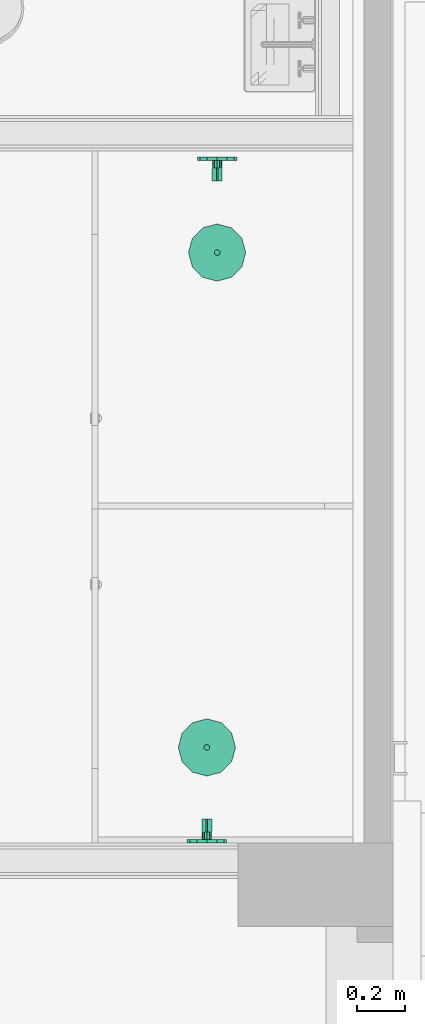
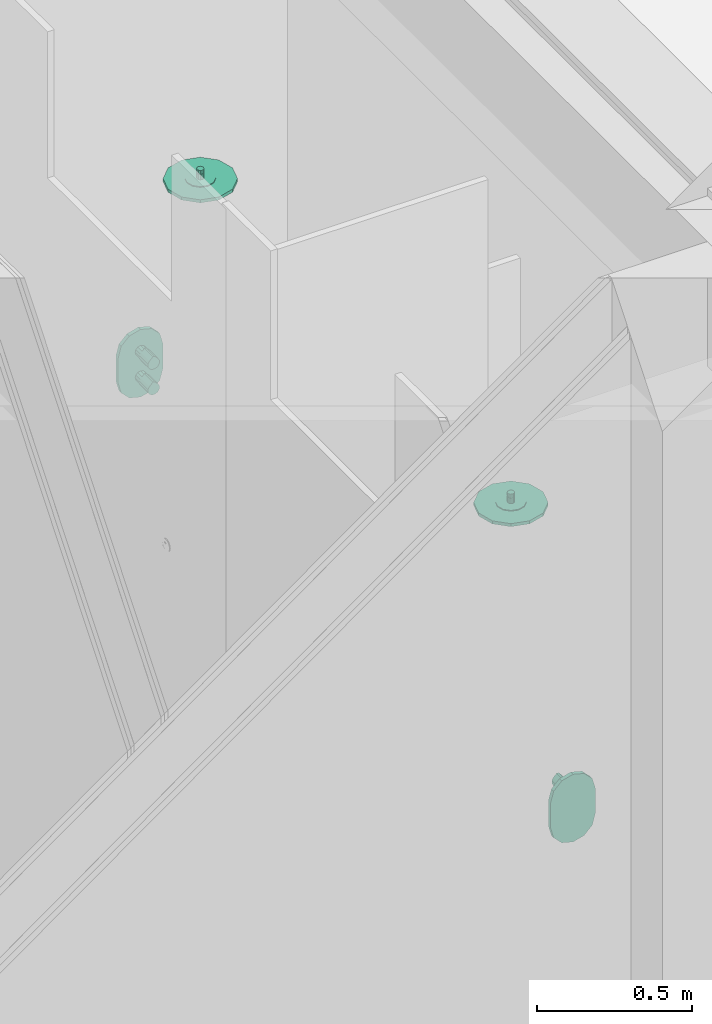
# One storey, part 92 of 109: 2 flow terminals.
"""IFC2X3 building model written with IfcOpenShell, lengths in millimetres."""

import ifcopenshell
import ifcopenshell.guid

model = None  # the IFC model being written
_history = None  # IfcOwnerHistory: only IFC2X3 demands one
_inside = {}  # id of a spatial element -> (the spatial element, [elements in it])
_under = {}  # id of a project, library or spatial element -> (it, [spatial elements below it])
_declared = {}  # id of a project -> (the project, [libraries it declares])
_typed = {}  # id of a type object -> (the type object, [elements of that type])
_made_of = {}  # id of a material, layer set ... -> (it, [elements and type objects made of it])


def new_model(schema):
    """Start an empty IFC model of exactly this schema.

    Asked for "IFC4X3", IfcOpenShell would pick the latest addendum, in which some entities
    have other attributes; the version numbers below select the first issue.
    IFC2X3 requires an IfcOwnerHistory on every rooted entity: one is made here for all.
    """
    global model, _history
    if schema == "IFC4X3":
        model = ifcopenshell.file(schema_version=(4, 3, 0, 0))
    else:
        model = ifcopenshell.file(schema=schema)
    _inside.clear()
    _under.clear()
    _declared.clear()
    _typed.clear()
    _made_of.clear()
    _history = None
    if model.schema == "IFC2X3":
        org = make("IfcOrganization", Name="unknown")
        user = make(
            "IfcPersonAndOrganization",
            ThePerson=make("IfcPerson", FamilyName="unknown"),
            TheOrganization=org,
        )
        app = make(
            "IfcApplication",
            ApplicationDeveloper=org,
            Version="unknown",
            ApplicationFullName="unknown",
            ApplicationIdentifier="unknown",
        )
        _history = make(
            "IfcOwnerHistory",
            OwningUser=user,
            OwningApplication=app,
            ChangeAction="ADDED",
            CreationDate=0,
        )
    return model


def make(cls, **values):
    """One entity of the class cls with the attributes given. An attribute that is None is left unset."""
    return model.create_entity(
        cls, **{name: value for name, value in values.items() if value is not None}
    )


def entity(cls, *values):
    """Any entity or typed value of the class cls, its attributes in the order of the schema. None: left unset."""
    e = model.create_entity(cls)
    for i, value in enumerate(values):
        if value is not None:
            e[i] = value
    return e


def rooted(cls, **values):
    """An entity with a GlobalId (a new one), such as an element, a storey or a relation."""
    return make(cls, GlobalId=ifcopenshell.guid.new(), OwnerHistory=_history, **values)


def si_unit(unit_type, name, prefix=None):
    """IfcSIUnit, for example si_unit("LENGTHUNIT", "METRE", prefix="MILLI")."""
    return make("IfcSIUnit", UnitType=unit_type, Prefix=prefix, Name=name)


def converted_unit(unit_type, name, factor, base, dimensions=None, offset=None):
    """IfcConversionBasedUnit, such as the inch: factor (a typed value) times the base unit."""
    return make(
        "IfcConversionBasedUnit"
        if offset is None
        else "IfcConversionBasedUnitWithOffset",
        ConversionOffset=offset,
        Dimensions=None
        if dimensions is None
        else entity("IfcDimensionalExponents", *dimensions),
        UnitType=unit_type,
        Name=name,
        ConversionFactor=make(
            "IfcMeasureWithUnit", ValueComponent=factor, UnitComponent=base
        ),
    )


def derived_unit(unit_type, elements):
    """IfcDerivedUnit: a product of units, each with its exponent."""
    return make(
        "IfcDerivedUnit",
        Elements=[
            make("IfcDerivedUnitElement", Unit=unit, Exponent=power)
            for unit, power in elements
        ],
        UnitType=unit_type,
    )


def money_unit(currency):
    """IfcMonetaryUnit."""
    return make("IfcMonetaryUnit", Currency=currency)


def assignment(units):
    """IfcUnitAssignment: the units of a project."""
    return None if units is None else make("IfcUnitAssignment", Units=units)


def point(xyz):
    """IfcCartesianPoint."""
    return None if xyz is None else make("IfcCartesianPoint", Coordinates=xyz)


def direction(xyz):
    """IfcDirection."""
    return None if xyz is None else make("IfcDirection", DirectionRatios=xyz)


def frame(location, z_axis=None, x_axis=None):
    """IfcAxis2Placement3D, a coordinate frame: its origin and axes. An axis left out is left unset."""
    return make(
        "IfcAxis2Placement3D",
        Location=point(location),
        Axis=direction(z_axis),
        RefDirection=direction(x_axis),
    )


def origin_with_axes():
    """The frame at (0, 0, 0) with the z axis (0, 0, 1) and the x axis (1, 0, 0) written out."""
    return frame((0.0, 0.0, 0.0), z_axis=(0.0, 0.0, 1.0), x_axis=(1.0, 0.0, 0.0))


def place(relative_to, where):
    """IfcLocalPlacement: puts the frame where relative to a parent placement (None: the world)."""
    return make(
        "IfcLocalPlacement", PlacementRelTo=relative_to, RelativePlacement=where
    )


def context(
    kind, dimensions, precision=None, world=None, true_north=None, identifier=None
):
    """IfcGeometricRepresentationContext, for example the 3D "Model" context."""
    return make(
        "IfcGeometricRepresentationContext",
        ContextIdentifier=identifier,
        ContextType=kind,
        CoordinateSpaceDimension=dimensions,
        Precision=precision,
        WorldCoordinateSystem=world,
        TrueNorth=true_north,
    )


def subcontext(parent, identifier, kind, view, scale=None):
    """IfcGeometricRepresentationSubContext, for example "Body" below "Model"."""
    return make(
        "IfcGeometricRepresentationSubContext",
        ContextIdentifier=identifier,
        ContextType=kind,
        ParentContext=parent,
        TargetScale=scale,
        TargetView=view,
    )


def project(units=None, contexts=None):
    """IfcProject with its units and contexts."""
    return rooted(
        "IfcProject",
        Name="project",
        RepresentationContexts=contexts,
        UnitsInContext=assignment(units),
    )


def spatial(cls, under=None, at=None, **own):
    """A site, building, storey or space (cls), placed at a placement, below another one or the project."""
    s = rooted(cls, ObjectPlacement=at, **own)
    if under is not None:
        _under.setdefault(under.id(), (under, []))[1].append(s)
    return s


def faces_of(points, faces, orient=None, outer=None):
    """IfcFace entities. A face is a list of loops; a loop is a list of indices into points, from 0.

    orient and outer hold one flag for each loop. By default every Orientation is true, the
    first loop of a face is its IfcFaceOuterBound and the others are IfcFaceBound.
    """
    made = []
    for i, loops in enumerate(faces):
        bounds = []
        for j, loop in enumerate(loops):
            is_outer = j == 0 if outer is None else outer[i][j]
            bounds.append(
                make(
                    "IfcFaceOuterBound" if is_outer else "IfcFaceBound",
                    Bound=make("IfcPolyLoop", Polygon=[points[k] for k in loop]),
                    Orientation=True if orient is None else orient[i][j],
                )
            )
        made.append(make("IfcFace", Bounds=bounds))
    return made


def faceted_brep(points, faces, orient=None, outer=None, voids=None):
    """IfcFacetedBrep: a solid bounded by flat faces; with voids (closed shells), ...WithVoids."""
    shared = [point(p) for p in points]
    hull = make("IfcClosedShell", CfsFaces=faces_of(shared, faces, orient, outer))
    if voids is None:
        return make("IfcFacetedBrep", Outer=hull)
    return make(
        "IfcFacetedBrepWithVoids",
        Outer=hull,
        Voids=[
            make(cls, CfsFaces=faces_of(shared, fs, o, b)) for cls, fs, o, b in voids
        ],
    )


def shape(context_of_items, identifier, shape_type, items):
    """IfcShapeRepresentation: the items that make up one representation, for example the "Body"."""
    return make(
        "IfcShapeRepresentation",
        ContextOfItems=context_of_items,
        RepresentationIdentifier=identifier,
        RepresentationType=shape_type,
        Items=items,
    )


def source(mapping_origin, context_of_items, identifier, shape_type, items):
    """IfcRepresentationMap: a shape defined once, which mapped items show again and again."""
    return make(
        "IfcRepresentationMap",
        MappingOrigin=mapping_origin,
        MappedRepresentation=shape(context_of_items, identifier, shape_type, items),
    )


def transform(
    local_origin,
    x_axis=None,
    y_axis=None,
    z_axis=None,
    scale=None,
    scale2=None,
    scale3=None,
    uniform=True,
):
    """IfcCartesianTransformationOperator3D, or its non-uniform kind. x_axis, y_axis, z_axis: its Axis1, 2, 3."""
    if uniform:
        return make(
            "IfcCartesianTransformationOperator3D",
            Axis1=direction(x_axis),
            Axis2=direction(y_axis),
            LocalOrigin=point(local_origin),
            Scale=scale,
            Axis3=direction(z_axis),
        )
    return make(
        "IfcCartesianTransformationOperator3DnonUniform",
        Axis1=direction(x_axis),
        Axis2=direction(y_axis),
        LocalOrigin=point(local_origin),
        Scale=scale,
        Axis3=direction(z_axis),
        Scale2=scale2,
        Scale3=scale3,
    )


def mapped(mapping_source, mapping_target):
    """IfcMappedItem: shows the shape of a source again, moved by a transform."""
    return make(
        "IfcMappedItem", MappingSource=mapping_source, MappingTarget=mapping_target
    )


def made_of(thing, what):
    """Note that an element or type object is made of a material, layer set ...; save() writes the relation."""
    if what is not None:
        _made_of.setdefault(what.id(), (what, []))[1].append(thing)
    return thing


def type_object(cls, material=None, **own):
    """A type object (cls), such as IfcWallType, which elements share."""
    return made_of(rooted(cls, **own), material)


def type_shapes(of_type, sources):
    """Give a type object the sources (RepresentationMaps) that its elements show as mapped items."""
    of_type.RepresentationMaps = sources


def element(
    cls,
    number,
    at=None,
    inside=None,
    cuts=None,
    type_object=None,
    material=None,
    context=None,
    identifier="Body",
    shape_type=None,
    held_by="IfcProductDefinitionShape",
    body=None,
    shapes=None,
    **own,
):
    """One element of the class cls, such as IfcWall. Its Tag is "e" and its number.

    at: its placement. inside: the storey or other place that contains it. cuts: it is an
    opening in that element (IfcRelVoidsElement). A single representation is given by context,
    identifier, shape_type and body (its items); several are given by shapes. held_by: the class
    of the entity that holds the representations. save() writes the other relations.
    """
    e = rooted(cls, Tag="e%d" % number, ObjectPlacement=at, **own)
    if body is not None:
        shapes = [shape(context, identifier, shape_type, body)]
    if shapes is not None:
        e.Representation = make(held_by, Representations=shapes)
    if inside is not None:
        _inside.setdefault(inside.id(), (inside, []))[1].append(e)
    if cuts is not None:
        rooted(
            "IfcRelVoidsElement", RelatingBuildingElement=cuts, RelatedOpeningElement=e
        )
    if type_object is not None:
        _typed.setdefault(type_object.id(), (type_object, []))[1].append(e)
    return made_of(e, material)


def aggregate(whole, parts):
    """IfcRelAggregates: a whole, such as a stair, and the parts it consists of."""
    return rooted("IfcRelAggregates", RelatingObject=whole, RelatedObjects=parts)


def save(model, path):
    """Write the relations noted so far, then the file.

    IfcRelAggregates (storeys below a building ...), IfcRelContainedInSpatialStructure (elements
    in a storey), IfcRelDefinesByType, IfcRelAssociatesMaterial and IfcRelDeclares: one each for
    every whole, place, type object, material and project.
    """
    for whole, parts in _under.values():
        aggregate(whole, parts)
    for where, things in _inside.values():
        rooted(
            "IfcRelContainedInSpatialStructure",
            RelatedElements=things,
            RelatingStructure=where,
        )
    for kind, things in _typed.values():
        rooted("IfcRelDefinesByType", RelatedObjects=things, RelatingType=kind)
    for what, things in _made_of.values():
        rooted("IfcRelAssociatesMaterial", RelatedObjects=things, RelatingMaterial=what)
    for by, libraries in _declared.values():
        rooted("IfcRelDeclares", RelatingContext=by, RelatedDefinitions=libraries)
    model.write(path)


model = new_model("IFC2X3")

# Units and contexts
model_context = context("Model", 3, precision=0.01, world=origin_with_axes(), true_north=direction((0.0, 1.0)))
body_context = subcontext(model_context, "Body", "Model", "MODEL_VIEW")
ifc_project = project(units=[si_unit("LENGTHUNIT", "METRE", prefix="MILLI"), si_unit("AREAUNIT", "SQUARE_METRE"), si_unit("VOLUMEUNIT", "CUBIC_METRE"), converted_unit("PLANEANGLEUNIT", "DEGREE", entity("IfcPlaneAngleMeasure", 0.0174532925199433), si_unit("PLANEANGLEUNIT", "RADIAN"), dimensions=[0, 0, 0, 0, 0, 0, 0]), money_unit("EUR"), converted_unit("TIMEUNIT", "Year", entity("IfcTimeMeasure", 31557600.0), si_unit("TIMEUNIT", "SECOND"), dimensions=[0, 0, 1, 0, 0, 0, 0]), si_unit("MASSUNIT", "GRAM", prefix="KILO"), si_unit("THERMODYNAMICTEMPERATUREUNIT", "DEGREE_CELSIUS"), si_unit("LUMINOUSINTENSITYUNIT", "LUMEN"), si_unit("ENERGYUNIT", "JOULE", prefix="MEGA"), derived_unit("THERMALCONDUCTANCEUNIT", [(si_unit("POWERUNIT", "WATT"), 1), (si_unit("LENGTHUNIT", "METRE"), -1), (si_unit("THERMODYNAMICTEMPERATUREUNIT", "KELVIN"), -1)]), derived_unit("SPECIFICHEATCAPACITYUNIT", [(si_unit("ENERGYUNIT", "JOULE"), 1), (si_unit("MASSUNIT", "GRAM", prefix="KILO"), -1), (si_unit("THERMODYNAMICTEMPERATUREUNIT", "KELVIN"), -1)]), derived_unit("MASSDENSITYUNIT", [(si_unit("MASSUNIT", "GRAM", prefix="KILO"), 1), (si_unit("VOLUMEUNIT", "CUBIC_METRE"), -1)])], contexts=[model_context])

# Site, building, storey
site_placement = place(None, origin_with_axes())
site = spatial("IfcSite", under=ifc_project, at=site_placement, Name="<site naam>", CompositionType="ELEMENT")
building_placement = place(site_placement, origin_with_axes())
building = spatial("IfcBuilding", under=site, at=building_placement, Name="<Naam gebouw>", CompositionType="ELEMENT")
storey_placement = place(building_placement, origin_with_axes())
storey = spatial("IfcBuildingStorey", under=building, at=storey_placement, Name="00 Begane grond", CompositionType="ELEMENT", Elevation=0.0)

# Flow terminals
sanitary_terminal_type = type_object("IfcSanitaryTerminalType", Name="Douche armatuur 27", PredefinedType="NOTDEFINED")
shared_shape = source(origin_with_axes(), body_context, "Body", "Brep", [
    faceted_brep([(-83.0, 0.0, 1000.0), (-83.0, 0.0, 950.0), (-83.0, -15.0, 950.0), (-83.0, -15.0, 1000.0), (-83.0, 0.0, 1050.0), (-71.88010851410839, 0.0, 1091.5), (-41.49999999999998, 0.0, 1121.880108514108), (0.0, 0.0, 1133.0), (41.50000000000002, 0.0, 1121.880108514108), (71.88010851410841, 0.0, 1091.5), (83.0, 0.0, 1050.0), (83.0, 0.0, 950.0), (71.88010851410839, 0.0, 908.5), (41.49999999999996, 0.0, 878.1198914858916), (0.0, 0.0, 867.0), (-41.50000000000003, 0.0, 878.1198914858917), (-71.88010851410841, 0.0, 908.5), (-71.88010851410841, -15.00000000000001, 908.5), (-41.50000000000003, -15.00000000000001, 878.1198914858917), (0.0, -15.00000000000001, 867.0), (41.49999999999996, -15.00000000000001, 878.1198914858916), (71.88010851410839, -15.00000000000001, 908.5), (83.0, -15.0, 950.0), (83.0, -15.0, 1050.0), (71.88010851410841, -14.99999999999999, 1091.5), (41.50000000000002, -14.99999999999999, 1121.880108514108), (0.0, -14.99999999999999, 1133.0), (-41.49999999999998, -14.99999999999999, 1121.880108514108), (-71.88010851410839, -14.99999999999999, 1091.5), (-83.0, -15.0, 1050.0)], [[[0, 1, 2, 3]], [[0, 4, 5, 6, 7, 8, 9, 10, 11, 12, 13, 14, 15, 16, 1]], [[1, 16, 17, 2]], [[3, 2, 17, 18, 19, 20, 21, 22, 23, 24, 25, 26, 27, 28, 29]], [[4, 0, 3, 29]], [[5, 4, 29, 28]], [[6, 5, 28, 27]], [[7, 6, 27, 26]], [[8, 7, 26, 25]], [[9, 8, 25, 24]], [[10, 9, 24, 23]], [[11, 10, 23, 22]], [[12, 11, 22, 21]], [[13, 12, 21, 20]], [[14, 13, 20, 19]], [[15, 14, 19, 18]], [[16, 15, 18, 17]]]),
    faceted_brep([(17.32050807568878, -45.0, 960.0), (20.0, -45.0, 950.0), (20.0, -15.0, 950.0), (17.32050807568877, -15.0, 960.0), (10.00000000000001, -45.0, 967.3205080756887), (0.0, -45.0, 970.0), (-9.999999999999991, -45.0, 967.3205080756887), (-17.32050807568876, -45.0, 960.0), (-19.99999999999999, -45.0, 950.0), (-17.32050807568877, -45.0, 940.0), (-10.00000000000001, -45.0, 932.6794919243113), (0.0, -45.0, 929.9999999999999), (9.999999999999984, -45.0, 932.6794919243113), (17.32050807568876, -45.0, 940.0), (17.32050807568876, -15.0, 940.0), (9.999999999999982, -15.0, 932.6794919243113), (0.0, -15.0, 929.9999999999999), (-10.00000000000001, -15.0, 932.6794919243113), (-17.32050807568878, -15.0, 940.0), (-20.0, -15.0, 950.0), (-17.32050807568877, -15.0, 960.0), (-9.999999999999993, -15.0, 967.3205080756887), (0.0, -15.0, 970.0), (10.0, -15.0, 967.3205080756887)], [[[0, 1, 2, 3]], [[1, 0, 4, 5, 6, 7, 8, 9, 10, 11, 12, 13]], [[1, 13, 14, 2]], [[2, 14, 15, 16, 17, 18, 19, 20, 21, 22, 23, 3]], [[4, 0, 3, 23]], [[5, 4, 23, 22]], [[6, 5, 22, 21]], [[7, 6, 21, 20]], [[8, 7, 20, 19]], [[9, 8, 19, 18]], [[10, 9, 18, 17]], [[11, 10, 17, 16]], [[12, 11, 16, 15]], [[13, 12, 15, 14]]]),
    faceted_brep([(-3.111269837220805, -45.0, 978.0014285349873), (-15.55634918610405, -45.0, 965.5563491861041), (-15.55634918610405, -100.0, 965.5563491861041), (-3.111269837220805, -100.0, 978.0014285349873), (3.111269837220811, -45.0, 978.0014285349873), (15.55634918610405, -45.0, 965.5563491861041), (21.2503681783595, -45.0, 955.6940189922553), (21.2503681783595, -45.0, 944.3059810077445), (15.55634918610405, -45.0, 934.4436508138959), (5.694018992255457, -45.0, 928.7496318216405), (-5.694018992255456, -45.0, 928.7496318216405), (-15.55634918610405, -45.0, 934.4436508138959), (-21.2503681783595, -45.0, 944.3059810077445), (-21.2503681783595, -45.0, 955.6940189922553), (-21.2503681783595, -100.0, 955.6940189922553), (-21.2503681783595, -100.0, 944.3059810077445), (-15.55634918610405, -100.0, 934.4436508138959), (-5.694018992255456, -100.0, 928.7496318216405), (5.694018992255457, -100.0, 928.7496318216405), (15.55634918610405, -100.0, 934.4436508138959), (21.2503681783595, -100.0, 944.3059810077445), (21.2503681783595, -100.0, 955.6940189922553), (15.55634918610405, -100.0, 965.5563491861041), (3.111269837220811, -100.0, 978.0014285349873)], [[[0, 1, 2, 3]], [[0, 4, 5, 6, 7, 8, 9, 10, 11, 12, 13, 1]], [[1, 13, 14, 2]], [[3, 2, 14, 15, 16, 17, 18, 19, 20, 21, 22, 23]], [[4, 0, 3, 23]], [[5, 4, 23, 22]], [[6, 5, 22, 21]], [[7, 6, 21, 20]], [[8, 7, 20, 19]], [[9, 8, 19, 18]], [[10, 9, 18, 17]], [[11, 10, 17, 16]], [[12, 11, 16, 15]], [[13, 12, 15, 14]]]),
    faceted_brep([(17.32050807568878, -45.0, 1060.0), (20.0, -45.0, 1050.0), (20.0, -15.0, 1050.0), (17.32050807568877, -15.0, 1060.0), (10.00000000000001, -45.0, 1067.320508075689), (0.0, -45.0, 1070.0), (-9.999999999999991, -45.0, 1067.320508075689), (-17.32050807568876, -45.0, 1060.0), (-19.99999999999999, -45.0, 1050.0), (-17.32050807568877, -45.0, 1040.0), (-10.00000000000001, -45.0, 1032.679491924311), (0.0, -45.0, 1030.0), (9.999999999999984, -45.0, 1032.679491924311), (17.32050807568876, -45.0, 1040.0), (17.32050807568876, -15.0, 1040.0), (9.999999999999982, -15.0, 1032.679491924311), (0.0, -15.0, 1030.0), (-10.00000000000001, -15.0, 1032.679491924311), (-17.32050807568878, -15.0, 1040.0), (-20.0, -15.0, 1050.0), (-17.32050807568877, -15.0, 1060.0), (-9.999999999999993, -15.0, 1067.320508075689), (0.0, -15.0, 1070.0), (10.0, -15.0, 1067.320508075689)], [[[0, 1, 2, 3]], [[1, 0, 4, 5, 6, 7, 8, 9, 10, 11, 12, 13]], [[1, 13, 14, 2]], [[2, 14, 15, 16, 17, 18, 19, 20, 21, 22, 23, 3]], [[4, 0, 3, 23]], [[5, 4, 23, 22]], [[6, 5, 22, 21]], [[7, 6, 21, 20]], [[8, 7, 20, 19]], [[9, 8, 19, 18]], [[10, 9, 18, 17]], [[11, 10, 17, 16]], [[12, 11, 16, 15]], [[13, 12, 15, 14]]]),
    faceted_brep([(-3.111269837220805, -45.0, 1078.001428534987), (-15.55634918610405, -45.0, 1065.556349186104), (-15.55634918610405, -100.0, 1065.556349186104), (-3.111269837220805, -100.0, 1078.001428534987), (3.111269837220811, -45.0, 1078.001428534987), (15.55634918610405, -45.0, 1065.556349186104), (21.2503681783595, -45.0, 1055.694018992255), (21.2503681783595, -45.0, 1044.305981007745), (15.55634918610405, -45.0, 1034.443650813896), (5.694018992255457, -45.0, 1028.74963182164), (-5.694018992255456, -45.0, 1028.74963182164), (-15.55634918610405, -45.0, 1034.443650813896), (-21.2503681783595, -45.0, 1044.305981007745), (-21.2503681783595, -45.0, 1055.694018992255), (-21.2503681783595, -100.0, 1055.694018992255), (-21.2503681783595, -100.0, 1044.305981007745), (-15.55634918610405, -100.0, 1034.443650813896), (-5.694018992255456, -100.0, 1028.74963182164), (5.694018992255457, -100.0, 1028.74963182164), (15.55634918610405, -100.0, 1034.443650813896), (21.2503681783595, -100.0, 1044.305981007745), (21.2503681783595, -100.0, 1055.694018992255), (15.55634918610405, -100.0, 1065.556349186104), (3.111269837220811, -100.0, 1078.001428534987)], [[[0, 1, 2, 3]], [[0, 4, 5, 6, 7, 8, 9, 10, 11, 12, 13, 1]], [[1, 13, 14, 2]], [[3, 2, 14, 15, 16, 17, 18, 19, 20, 21, 22, 23]], [[4, 0, 3, 23]], [[5, 4, 23, 22]], [[6, 5, 22, 21]], [[7, 6, 21, 20]], [[8, 7, 20, 19]], [[9, 8, 19, 18]], [[10, 9, 18, 17]], [[11, 10, 17, 16]], [[12, 11, 16, 15]], [[13, 12, 15, 14]]]),
    faceted_brep([(54.99999999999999, -304.7372055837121, 1946.0), (0.0, -290.0000000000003, 1946.0), (0.0, -290.0000000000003, 1948.0), (54.99999999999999, -304.7372055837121, 1948.0), (95.26279441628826, -345.0000000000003, 1946.0), (110.0, -400.0000000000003, 1946.0), (95.26279441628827, -455.0000000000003, 1946.0), (55.00000000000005, -495.2627944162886, 1946.0), (0.0, -510.0000000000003, 1946.0), (-54.99999999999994, -495.2627944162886, 1946.0), (-95.26279441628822, -455.0000000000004, 1946.0), (-110.0, -400.0000000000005, 1946.0), (-95.2627944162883, -345.0000000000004, 1946.0), (-55.0000000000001, -304.7372055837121, 1946.0), (-55.0000000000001, -304.7372055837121, 1948.0), (0.0, -280.0000000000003, 1948.0), (60.0, -296.0769515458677, 1948.0), (95.26279441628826, -345.0000000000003, 1948.0), (110.0, -400.0000000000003, 1948.0), (95.26279441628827, -455.0000000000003, 1948.0), (55.00000000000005, -495.2627944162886, 1948.0), (0.0, -510.0000000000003, 1948.0), (-54.99999999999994, -495.2627944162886, 1948.0), (-95.26279441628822, -455.0000000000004, 1948.0), (-110.0, -400.0000000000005, 1948.0), (-95.2627944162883, -345.0000000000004, 1948.0), (-60.00000000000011, -296.0769515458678, 1948.0), (0.0, -280.0000000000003, 1960.0), (60.0, -296.0769515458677, 1960.0), (103.9230484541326, -340.0000000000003, 1948.0), (120.0, -400.0000000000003, 1948.0), (103.9230484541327, -460.0000000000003, 1948.0), (60.00000000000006, -503.9230484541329, 1948.0), (0.0, -520.0000000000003, 1948.0), (-59.99999999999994, -503.923048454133, 1948.0), (-103.9230484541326, -460.0000000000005, 1948.0), (-120.0, -400.0000000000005, 1948.0), (-103.9230484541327, -340.0000000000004, 1948.0), (-60.00000000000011, -296.0769515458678, 1960.0), (0.0, -350.0000000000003, 1960.0), (25.0, -356.6987298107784, 1960.0), (103.9230484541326, -340.0000000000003, 1960.0), (120.0, -400.0000000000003, 1960.0), (103.9230484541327, -460.0000000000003, 1960.0), (60.00000000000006, -503.9230484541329, 1960.0), (0.0, -520.0000000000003, 1960.0), (-59.99999999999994, -503.923048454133, 1960.0), (-103.9230484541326, -460.0000000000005, 1960.0), (-120.0, -400.0000000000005, 1960.0), (-103.9230484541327, -340.0000000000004, 1960.0), (-25.00000000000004, -356.6987298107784, 1960.0), (0.0, -350.0000000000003, 1963.0), (25.0, -356.6987298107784, 1963.0), (43.30127018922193, -375.0000000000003, 1960.0), (50.0, -400.0000000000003, 1960.0), (43.30127018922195, -425.0000000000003, 1960.0), (25.00000000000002, -443.3012701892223, 1960.0), (0.0, -450.0000000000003, 1960.0), (-24.99999999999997, -443.3012701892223, 1960.0), (-43.30127018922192, -425.0000000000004, 1960.0), (-50.0, -400.0000000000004, 1960.0), (-43.30127018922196, -375.0000000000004, 1960.0), (-25.00000000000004, -356.6987298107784, 1963.0), (0.0, -388.0000000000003, 1963.0), (6.000000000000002, -389.6076951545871, 1963.0), (43.30127018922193, -375.0000000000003, 1963.0), (50.0, -400.0000000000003, 1963.0), (43.30127018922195, -425.0000000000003, 1963.0), (25.00000000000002, -443.3012701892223, 1963.0), (0.0, -450.0000000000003, 1963.0), (-24.99999999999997, -443.3012701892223, 1963.0), (-43.30127018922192, -425.0000000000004, 1963.0), (-50.0, -400.0000000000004, 1963.0), (-43.30127018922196, -375.0000000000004, 1963.0), (-6.000000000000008, -389.6076951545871, 1963.0), (0.0, -388.0000000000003, 1984.0), (6.0, -389.6076951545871, 1984.0), (10.39230484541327, -394.0000000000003, 1963.0), (12.0, -400.0000000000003, 1963.0), (10.39230484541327, -406.0000000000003, 1963.0), (6.000000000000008, -410.3923048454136, 1963.0), (0.0, -412.0000000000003, 1963.0), (-5.99999999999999, -410.3923048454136, 1963.0), (-10.39230484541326, -406.0000000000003, 1963.0), (-12.0, -400.0000000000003, 1963.0), (-10.39230484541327, -394.0000000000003, 1963.0), (-6.00000000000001, -389.6076951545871, 1984.0), (0.0, -390.0000000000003, 1984.0), (5.0, -391.339745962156, 1984.0), (10.39230484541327, -394.0000000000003, 1984.0), (12.0, -400.0000000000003, 1984.0), (10.39230484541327, -406.0000000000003, 1984.0), (6.000000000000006, -410.3923048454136, 1984.0), (0.0, -412.0000000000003, 1984.0), (-5.999999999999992, -410.3923048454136, 1984.0), (-10.39230484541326, -406.0000000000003, 1984.0), (-12.0, -400.0000000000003, 1984.0), (-10.39230484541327, -394.0000000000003, 1984.0), (-5.000000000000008, -391.339745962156, 1984.0), (0.0, -390.0000000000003, 1987.0), (5.0, -391.339745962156, 1987.0), (8.660254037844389, -395.0000000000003, 1984.0), (10.0, -400.0000000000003, 1984.0), (8.66025403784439, -405.0000000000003, 1984.0), (5.000000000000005, -408.6602540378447, 1984.0), (0.0, -410.0000000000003, 1984.0), (-4.999999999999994, -408.6602540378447, 1984.0), (-8.660254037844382, -405.0000000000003, 1984.0), (-9.999999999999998, -400.0000000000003, 1984.0), (-8.66025403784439, -395.0000000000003, 1984.0), (-5.000000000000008, -391.339745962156, 1987.0), (0.0, -388.0000000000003, 1987.0), (6.0, -389.6076951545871, 1987.0), (8.660254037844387, -395.0000000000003, 1987.0), (10.0, -400.0000000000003, 1987.0), (8.660254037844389, -405.0000000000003, 1987.0), (5.000000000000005, -408.6602540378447, 1987.0), (0.0, -410.0000000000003, 1987.0), (-4.999999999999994, -408.6602540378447, 1987.0), (-8.660254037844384, -405.0000000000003, 1987.0), (-10.0, -400.0000000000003, 1987.0), (-8.66025403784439, -395.0000000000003, 1987.0), (-6.00000000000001, -389.6076951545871, 1987.0), (0.0, -388.0000000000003, 2000.0), (5.999999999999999, -389.6076951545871, 2000.0), (10.39230484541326, -394.0000000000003, 1987.0), (12.0, -400.0000000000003, 1987.0), (10.39230484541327, -406.0000000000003, 1987.0), (6.000000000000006, -410.3923048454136, 1987.0), (0.0, -412.0000000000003, 1987.0), (-5.999999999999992, -410.3923048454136, 1987.0), (-10.39230484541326, -406.0000000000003, 1987.0), (-12.0, -400.0000000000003, 1987.0), (-10.39230484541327, -394.0000000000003, 1987.0), (-6.000000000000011, -389.6076951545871, 2000.0), (-10.39230484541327, -394.0000000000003, 2000.0), (-12.0, -400.0000000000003, 2000.0), (-10.39230484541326, -406.0000000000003, 2000.0), (-5.999999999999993, -410.3923048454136, 2000.0), (0.0, -412.0000000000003, 2000.0), (6.000000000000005, -410.3923048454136, 2000.0), (10.39230484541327, -406.0000000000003, 2000.0), (12.0, -400.0000000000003, 2000.0), (10.39230484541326, -394.0000000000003, 2000.0)], [[[0, 1, 2, 3]], [[1, 0, 4, 5, 6, 7, 8, 9, 10, 11, 12, 13]], [[1, 13, 14, 2]], [[3, 2, 15, 16]], [[4, 0, 3, 17]], [[5, 4, 17, 18]], [[6, 5, 18, 19]], [[7, 6, 19, 20]], [[8, 7, 20, 21]], [[9, 8, 21, 22]], [[10, 9, 22, 23]], [[11, 10, 23, 24]], [[12, 11, 24, 25]], [[13, 12, 25, 14]], [[2, 14, 26, 15]], [[16, 15, 27, 28]], [[17, 3, 16, 29]], [[18, 17, 29, 30]], [[19, 18, 30, 31]], [[20, 19, 31, 32]], [[21, 20, 32, 33]], [[22, 21, 33, 34]], [[23, 22, 34, 35]], [[24, 23, 35, 36]], [[25, 24, 36, 37]], [[14, 25, 37, 26]], [[15, 26, 38, 27]], [[28, 27, 39, 40]], [[29, 16, 28, 41]], [[30, 29, 41, 42]], [[31, 30, 42, 43]], [[32, 31, 43, 44]], [[33, 32, 44, 45]], [[34, 33, 45, 46]], [[35, 34, 46, 47]], [[36, 35, 47, 48]], [[37, 36, 48, 49]], [[26, 37, 49, 38]], [[27, 38, 50, 39]], [[40, 39, 51, 52]], [[41, 28, 40, 53]], [[42, 41, 53, 54]], [[43, 42, 54, 55]], [[44, 43, 55, 56]], [[45, 44, 56, 57]], [[46, 45, 57, 58]], [[47, 46, 58, 59]], [[48, 47, 59, 60]], [[49, 48, 60, 61]], [[38, 49, 61, 50]], [[39, 50, 62, 51]], [[52, 51, 63, 64]], [[53, 40, 52, 65]], [[54, 53, 65, 66]], [[55, 54, 66, 67]], [[56, 55, 67, 68]], [[57, 56, 68, 69]], [[58, 57, 69, 70]], [[59, 58, 70, 71]], [[60, 59, 71, 72]], [[61, 60, 72, 73]], [[50, 61, 73, 62]], [[51, 62, 74, 63]], [[64, 63, 75, 76]], [[65, 52, 64, 77]], [[66, 65, 77, 78]], [[67, 66, 78, 79]], [[68, 67, 79, 80]], [[69, 68, 80, 81]], [[70, 69, 81, 82]], [[71, 70, 82, 83]], [[72, 71, 83, 84]], [[73, 72, 84, 85]], [[62, 73, 85, 74]], [[63, 74, 86, 75]], [[76, 75, 87, 88]], [[77, 64, 76, 89]], [[78, 77, 89, 90]], [[79, 78, 90, 91]], [[80, 79, 91, 92]], [[81, 80, 92, 93]], [[82, 81, 93, 94]], [[83, 82, 94, 95]], [[84, 83, 95, 96]], [[85, 84, 96, 97]], [[74, 85, 97, 86]], [[75, 86, 98, 87]], [[88, 87, 99, 100]], [[89, 76, 88, 101]], [[90, 89, 101, 102]], [[91, 90, 102, 103]], [[92, 91, 103, 104]], [[93, 92, 104, 105]], [[94, 93, 105, 106]], [[95, 94, 106, 107]], [[96, 95, 107, 108]], [[97, 96, 108, 109]], [[86, 97, 109, 98]], [[87, 98, 110, 99]], [[100, 99, 111, 112]], [[101, 88, 100, 113]], [[102, 101, 113, 114]], [[103, 102, 114, 115]], [[104, 103, 115, 116]], [[105, 104, 116, 117]], [[106, 105, 117, 118]], [[107, 106, 118, 119]], [[108, 107, 119, 120]], [[109, 108, 120, 121]], [[98, 109, 121, 110]], [[99, 110, 122, 111]], [[112, 111, 123, 124]], [[113, 100, 112, 125]], [[114, 113, 125, 126]], [[115, 114, 126, 127]], [[116, 115, 127, 128]], [[117, 116, 128, 129]], [[118, 117, 129, 130]], [[119, 118, 130, 131]], [[120, 119, 131, 132]], [[121, 120, 132, 133]], [[110, 121, 133, 122]], [[111, 122, 134, 123]], [[123, 134, 135, 136, 137, 138, 139, 140, 141, 142, 143, 124]], [[125, 112, 124, 143]], [[126, 125, 143, 142]], [[127, 126, 142, 141]], [[128, 127, 141, 140]], [[129, 128, 140, 139]], [[130, 129, 139, 138]], [[131, 130, 138, 137]], [[132, 131, 137, 136]], [[133, 132, 136, 135]], [[122, 133, 135, 134]]]),
])
type_shapes(sanitary_terminal_type, [shared_shape])
for number, where, z_axis, x_axis, name in (
    (1, (57587.78284470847, 7050.00000000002, -75.0), (0.0, 0.0, 1.0), (1.0, 0.0, 0.0), "74_Brandslanghaspelkast_Lege"),
    (2, (57544.99986387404, 4175.000000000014, -75.0), (0.0, 0.0, 1.0), (-1.0, 0.0, 0.0), "74_Brandslanghaspelkast_Lege"),
):
    element("IfcFlowTerminal", number, at=place(storey_placement, frame(where, z_axis=z_axis, x_axis=x_axis)), inside=storey, type_object=sanitary_terminal_type, Name=name, ObjectType="Sanitary Terminal", context=body_context, shape_type="MappedRepresentation", body=[
        mapped(shared_shape, transform((0.0, 0.0, 0.0))),
    ])

save(model, "model.ifc")
